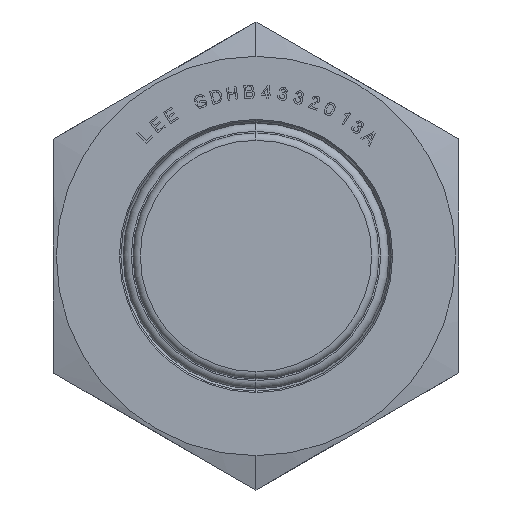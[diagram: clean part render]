
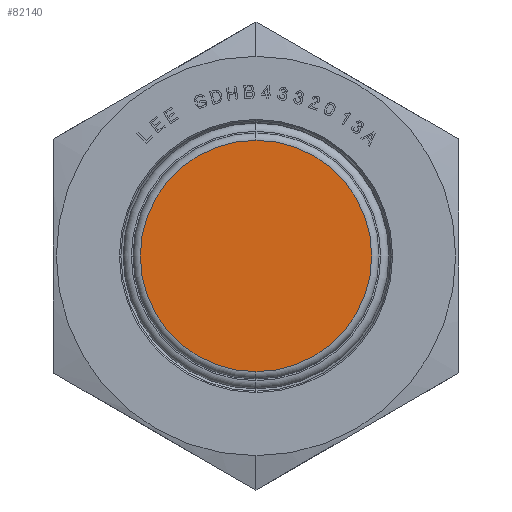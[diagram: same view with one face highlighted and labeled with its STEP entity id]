
A CAD part, left-side view. The second image highlights one B-rep face of the part: STEP entity #82140.
In plain terms, the highlighted planar face has unit normal (-1, 0, 0).
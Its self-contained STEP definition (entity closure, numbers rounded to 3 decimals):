
#81940=CARTESIAN_POINT('',(-34.986,14.25,0.));
#81950=DIRECTION('',(1.,0.,0.));
#81960=DIRECTION('',(0.,-1.,0.));
#81970=AXIS2_PLACEMENT_3D('',#81940,#81950,#81960);
#81980=PLANE('',#81970);
#81990=CARTESIAN_POINT('',(-34.986,10.059,0.));
#82000=DIRECTION('',(-1.,0.,0.));
#82010=DIRECTION('',(0.,1.,0.));
#82020=AXIS2_PLACEMENT_3D('',#81990,#82000,#82010);
#82030=CIRCLE('',#82020,9.97);
#82040=CARTESIAN_POINT('',(-34.986,20.029,0.));
#82050=VERTEX_POINT('',#82040);
#82060=CARTESIAN_POINT('',(-34.986,0.09,0.));
#82070=VERTEX_POINT('',#82060);
#82080=EDGE_CURVE('',#82050,#82070,#82030,.T.);
#82090=ORIENTED_EDGE('',*,*,#82080,.T.);
#82100=EDGE_CURVE('',#82070,#82050,#82030,.T.);
#82110=ORIENTED_EDGE('',*,*,#82100,.T.);
#82120=EDGE_LOOP('',(#82110,#82090));
#82130=FACE_OUTER_BOUND('',#82120,.T.);
#82140=ADVANCED_FACE('',(#82130),#81980,.F.);
